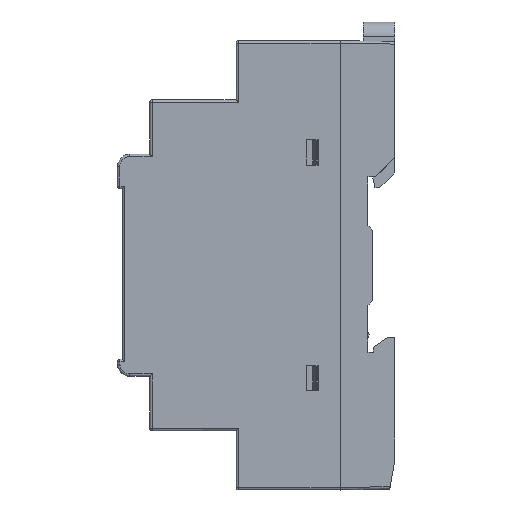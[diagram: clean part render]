
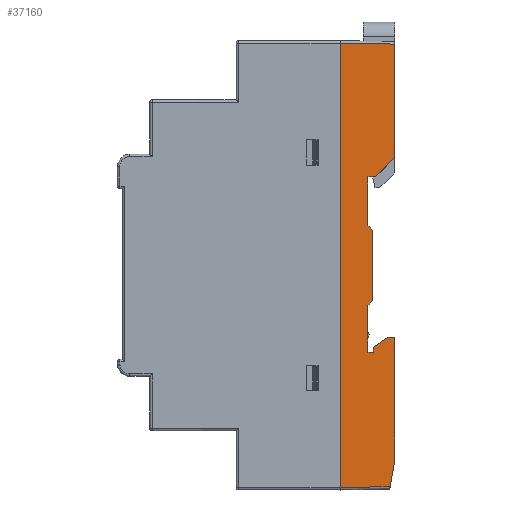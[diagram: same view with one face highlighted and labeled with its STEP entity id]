
A CAD part, left-side view. The second image highlights one B-rep face of the part: STEP entity #37160.
In plain terms, the highlighted planar face has unit normal (-1, 0, 0).
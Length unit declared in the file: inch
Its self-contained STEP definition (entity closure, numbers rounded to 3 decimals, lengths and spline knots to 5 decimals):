
#211 = EDGE_CURVE ( 'NONE', #23925, #9026, #12803, .T. ) ;
#605 = AXIS2_PLACEMENT_3D ( 'NONE', #22690, #5030, #25640 ) ;
#613 = VECTOR ( 'NONE', #19781, 39.37008 ) ;
#1180 = LINE ( 'NONE', #1273, #15881 ) ;
#1273 = CARTESIAN_POINT ( 'NONE',  ( -0.68898, 0.17717, 0. ) ) ;
#1679 = ORIENTED_EDGE ( 'NONE', *, *, #14467, .F. ) ;
#1752 = ORIENTED_EDGE ( 'NONE', *, *, #29768, .F. ) ;
#1861 = DIRECTION ( 'NONE',  ( 0., -1., 0. ) ) ;
#2050 = VERTEX_POINT ( 'NONE', #32744 ) ;
#2859 = VECTOR ( 'NONE', #16542, 39.37008 ) ;
#2998 = DIRECTION ( 'NONE',  ( 0., 0., -1. ) ) ;
#3376 = LINE ( 'NONE', #23557, #19036 ) ;
#3557 = AXIS2_PLACEMENT_3D ( 'NONE', #26457, #20639, #2998 ) ;
#3958 = CARTESIAN_POINT ( 'NONE',  ( -0.68898, 0., 0. ) ) ;
#4088 = DIRECTION ( 'NONE',  ( 0., 0., -1. ) ) ;
#4493 = CARTESIAN_POINT ( 'NONE',  ( -0.68898, 0.2126, 0. ) ) ;
#4555 = EDGE_CURVE ( 'NONE', #23993, #23925, #33572, .T. ) ;
#4857 = CARTESIAN_POINT ( 'NONE',  ( -0.68898, 0.18307, 0.70472 ) ) ;
#5030 = DIRECTION ( 'NONE',  ( 1., 0., 0. ) ) ;
#5397 = CARTESIAN_POINT ( 'NONE',  ( -0.68898, 0.43307, 0. ) ) ;
#5456 = LINE ( 'NONE', #12408, #14202 ) ;
#5609 = CARTESIAN_POINT ( 'NONE',  ( -0.68898, 0.15354, 0.70472 ) ) ;
#5964 = VECTOR ( 'NONE', #11916, 39.37008 ) ;
#6102 = CARTESIAN_POINT ( 'NONE',  ( -0.68898, 0.03236, -0.5748 ) ) ;
#6200 = VECTOR ( 'NONE', #7394, 39.37008 ) ;
#6231 = EDGE_CURVE ( 'NONE', #22958, #23993, #17196, .T. ) ;
#6399 = CARTESIAN_POINT ( 'NONE',  ( -0.68898, 0.2126, -0.3189 ) ) ;
#6469 = EDGE_CURVE ( 'NONE', #17489, #35217, #3376, .T. ) ;
#6553 = CARTESIAN_POINT ( 'NONE',  ( -0.68898, 0., 0.85827 ) ) ;
#6958 = CARTESIAN_POINT ( 'NONE',  ( -0.68898, 0., 0.85827 ) ) ;
#6992 = FACE_OUTER_BOUND ( 'NONE', #31617, .T. ) ;
#7394 = DIRECTION ( 'NONE',  ( 0., 0., -1. ) ) ;
#7504 = VERTEX_POINT ( 'NONE', #26754 ) ;
#8312 = DIRECTION ( 'NONE',  ( 0., 0., 1. ) ) ;
#8334 = CARTESIAN_POINT ( 'NONE',  ( -0.68898, 0.03589, -1.76472 ) ) ;
#8741 = EDGE_CURVE ( 'NONE', #18408, #17489, #18440, .T. ) ;
#8831 = VERTEX_POINT ( 'NONE', #11238 ) ;
#9016 = DIRECTION ( 'NONE',  ( 0., -1., 0. ) ) ;
#9026 = VERTEX_POINT ( 'NONE', #5609 ) ;
#9736 = LINE ( 'NONE', #32936, #17608 ) ;
#9931 = ORIENTED_EDGE ( 'NONE', *, *, #36259, .F. ) ;
#10236 = VECTOR ( 'NONE', #31536, 39.37008 ) ;
#11238 = CARTESIAN_POINT ( 'NONE',  ( -0.68898, 0.17717, 0.27953 ) ) ;
#11817 = ORIENTED_EDGE ( 'NONE', *, *, #30679, .F. ) ;
#11884 = VECTOR ( 'NONE', #8312, 39.37008 ) ;
#11916 = DIRECTION ( 'NONE',  ( 0., 0., -1. ) ) ;
#12162 = DIRECTION ( 'NONE',  ( 0., 0.707, -0.707 ) ) ;
#12243 = DIRECTION ( 'NONE',  ( 0., -0.669, 0.743 ) ) ;
#12320 = DIRECTION ( 'NONE',  ( 0., 1., -0.017 ) ) ;
#12408 = CARTESIAN_POINT ( 'NONE',  ( -0.68898, 0.03589, -1.76472 ) ) ;
#12803 = LINE ( 'NONE', #6553, #34517 ) ;
#12873 = VERTEX_POINT ( 'NONE', #17978 ) ;
#13116 = CARTESIAN_POINT ( 'NONE',  ( -0.68898, 0., 0. ) ) ;
#13278 = CARTESIAN_POINT ( 'NONE',  ( -0.68898, 0., 1.76409 ) ) ;
#13338 = DIRECTION ( 'NONE',  ( 0., 0., -1. ) ) ;
#13429 = DIRECTION ( 'NONE',  ( 0., -0.819, 0.574 ) ) ;
#13837 = VERTEX_POINT ( 'NONE', #30425 ) ;
#13862 = CARTESIAN_POINT ( 'NONE',  ( -0.68898, 0.16929, -0.65354 ) ) ;
#14115 = ORIENTED_EDGE ( 'NONE', *, *, #8741, .F. ) ;
#14202 = VECTOR ( 'NONE', #12320, 39.37008 ) ;
#14419 = EDGE_CURVE ( 'NONE', #27471, #35261, #30884, .T. ) ;
#14467 = EDGE_CURVE ( 'NONE', #35217, #2050, #5456, .T. ) ;
#15435 = VERTEX_POINT ( 'NONE', #24140 ) ;
#15881 = VECTOR ( 'NONE', #27843, 39.37008 ) ;
#15900 = ORIENTED_EDGE ( 'NONE', *, *, #24870, .T. ) ;
#16241 = CARTESIAN_POINT ( 'NONE',  ( -0.68898, 0., -1.56119 ) ) ;
#16542 = DIRECTION ( 'NONE',  ( 0., 0., 1. ) ) ;
#16920 = ORIENTED_EDGE ( 'NONE', *, *, #211, .F. ) ;
#17196 = LINE ( 'NONE', #31651, #10236 ) ;
#17489 = VERTEX_POINT ( 'NONE', #16241 ) ;
#17608 = VECTOR ( 'NONE', #12243, 39.37008 ) ;
#17978 = CARTESIAN_POINT ( 'NONE',  ( -0.68898, 0.00787, -0.5748 ) ) ;
#18268 = ORIENTED_EDGE ( 'NONE', *, *, #6469, .F. ) ;
#18408 = VERTEX_POINT ( 'NONE', #35381 ) ;
#18440 = LINE ( 'NONE', #13116, #26316 ) ;
#18475 = VERTEX_POINT ( 'NONE', #30042 ) ;
#19036 = VECTOR ( 'NONE', #24112, 39.37008 ) ;
#19375 = DIRECTION ( 'NONE',  ( 0., 0.669, 0.743 ) ) ;
#19781 = DIRECTION ( 'NONE',  ( 0., -1., 0. ) ) ;
#20357 = VECTOR ( 'NONE', #1861, 39.37008 ) ;
#20639 = DIRECTION ( 'NONE',  ( 1., 0., 0. ) ) ;
#20669 = LINE ( 'NONE', #6102, #35411 ) ;
#20734 = LINE ( 'NONE', #32616, #5964 ) ;
#20855 = ORIENTED_EDGE ( 'NONE', *, *, #27232, .F. ) ;
#21778 = ORIENTED_EDGE ( 'NONE', *, *, #33218, .T. ) ;
#22337 = CARTESIAN_POINT ( 'NONE',  ( -0.68898, 0.1063, -0.69291 ) ) ;
#22690 = CARTESIAN_POINT ( 'NONE',  ( -0.68898, 0.00787, -0.58268 ) ) ;
#22958 = VERTEX_POINT ( 'NONE', #36715 ) ;
#23067 = EDGE_CURVE ( 'NONE', #12873, #18408, #34873, .T. ) ;
#23557 = CARTESIAN_POINT ( 'NONE',  ( -0.68898, 0., -1.56119 ) ) ;
#23907 = VECTOR ( 'NONE', #13429, 39.37008 ) ;
#23925 = VERTEX_POINT ( 'NONE', #6958 ) ;
#23993 = VERTEX_POINT ( 'NONE', #13278 ) ;
#24099 = LINE ( 'NONE', #4857, #613 ) ;
#24112 = DIRECTION ( 'NONE',  ( 0., 0.174, -0.985 ) ) ;
#24140 = CARTESIAN_POINT ( 'NONE',  ( -0.68898, 0.2126, -0.69291 ) ) ;
#24870 = EDGE_CURVE ( 'NONE', #18475, #9026, #24099, .T. ) ;
#25018 = LINE ( 'NONE', #37009, #33778 ) ;
#25400 = CARTESIAN_POINT ( 'NONE',  ( -0.68898, 0.17717, -0.27953 ) ) ;
#25445 = LINE ( 'NONE', #34211, #2859 ) ;
#25640 = DIRECTION ( 'NONE',  ( 0., 0., 1. ) ) ;
#25641 = ORIENTED_EDGE ( 'NONE', *, *, #36200, .F. ) ;
#25729 = VECTOR ( 'NONE', #4088, 39.37008 ) ;
#26262 = CARTESIAN_POINT ( 'NONE',  ( -0.68898, 0.16929, -0.65354 ) ) ;
#26316 = VECTOR ( 'NONE', #13338, 39.37008 ) ;
#26457 = CARTESIAN_POINT ( 'NONE',  ( -0.68898, 0.21654, 0. ) ) ;
#26754 = CARTESIAN_POINT ( 'NONE',  ( -0.68898, 0.2126, 0.3189 ) ) ;
#27232 = EDGE_CURVE ( 'NONE', #15435, #13837, #28257, .T. ) ;
#27471 = VERTEX_POINT ( 'NONE', #26262 ) ;
#27654 = LINE ( 'NONE', #5397, #11884 ) ;
#27843 = DIRECTION ( 'NONE',  ( 0., 0., -1. ) ) ;
#28257 = LINE ( 'NONE', #22337, #20357 ) ;
#29611 = ORIENTED_EDGE ( 'NONE', *, *, #31308, .F. ) ;
#29768 = EDGE_CURVE ( 'NONE', #13837, #27471, #25445, .T. ) ;
#29794 = LINE ( 'NONE', #4493, #6200 ) ;
#30042 = CARTESIAN_POINT ( 'NONE',  ( -0.68898, 0.2126, 0.70472 ) ) ;
#30425 = CARTESIAN_POINT ( 'NONE',  ( -0.68898, 0.16929, -0.69291 ) ) ;
#30553 = EDGE_CURVE ( 'NONE', #2050, #22958, #27654, .T. ) ;
#30679 = EDGE_CURVE ( 'NONE', #18475, #7504, #20734, .T. ) ;
#30884 = LINE ( 'NONE', #13862, #23907 ) ;
#31008 = ORIENTED_EDGE ( 'NONE', *, *, #30553, .F. ) ;
#31308 = EDGE_CURVE ( 'NONE', #35261, #12873, #20669, .T. ) ;
#31536 = DIRECTION ( 'NONE',  ( 0., -1., -0.017 ) ) ;
#31617 = EDGE_LOOP ( 'NONE', ( #1679, #18268, #14115, #35545, #29611, #36066, #1752, #20855, #9931, #21778, #25641, #32507, #11817, #15900, #16920, #37168, #35056, #31008 ) ) ;
#31651 = CARTESIAN_POINT ( 'NONE',  ( -0.68898, 0.43307, 1.77165 ) ) ;
#32145 = CARTESIAN_POINT ( 'NONE',  ( -0.68898, 0.05684, -0.5748 ) ) ;
#32507 = ORIENTED_EDGE ( 'NONE', *, *, #33296, .T. ) ;
#32616 = CARTESIAN_POINT ( 'NONE',  ( -0.68898, 0.2126, 0. ) ) ;
#32744 = CARTESIAN_POINT ( 'NONE',  ( -0.68898, 0.43307, -1.77165 ) ) ;
#32936 = CARTESIAN_POINT ( 'NONE',  ( -0.68898, 0.19488, -0.29921 ) ) ;
#33218 = EDGE_CURVE ( 'NONE', #36068, #37402, #9736, .T. ) ;
#33296 = EDGE_CURVE ( 'NONE', #8831, #7504, #25018, .T. ) ;
#33572 = LINE ( 'NONE', #3958, #25729 ) ;
#33778 = VECTOR ( 'NONE', #19375, 39.37008 ) ;
#34211 = CARTESIAN_POINT ( 'NONE',  ( -0.68898, 0.16929, -0.67323 ) ) ;
#34517 = VECTOR ( 'NONE', #12162, 39.37008 ) ;
#34873 = CIRCLE ( 'NONE', #605, 0.00787 ) ;
#35056 = ORIENTED_EDGE ( 'NONE', *, *, #6231, .F. ) ;
#35217 = VERTEX_POINT ( 'NONE', #8334 ) ;
#35261 = VERTEX_POINT ( 'NONE', #32145 ) ;
#35311 = PLANE ( 'NONE',  #3557 ) ;
#35381 = CARTESIAN_POINT ( 'NONE',  ( -0.68898, 0., -0.58268 ) ) ;
#35411 = VECTOR ( 'NONE', #9016, 39.37008 ) ;
#35545 = ORIENTED_EDGE ( 'NONE', *, *, #23067, .F. ) ;
#36066 = ORIENTED_EDGE ( 'NONE', *, *, #14419, .F. ) ;
#36068 = VERTEX_POINT ( 'NONE', #6399 ) ;
#36200 = EDGE_CURVE ( 'NONE', #8831, #37402, #1180, .T. ) ;
#36259 = EDGE_CURVE ( 'NONE', #36068, #15435, #29794, .T. ) ;
#36715 = CARTESIAN_POINT ( 'NONE',  ( -0.68898, 0.43307, 1.77165 ) ) ;
#37009 = CARTESIAN_POINT ( 'NONE',  ( -0.68898, 0.19488, 0.29921 ) ) ;
#37160 = ADVANCED_FACE ( 'NONE', ( #6992 ), #35311, .F. ) ;
#37168 = ORIENTED_EDGE ( 'NONE', *, *, #4555, .F. ) ;
#37402 = VERTEX_POINT ( 'NONE', #25400 ) ;
